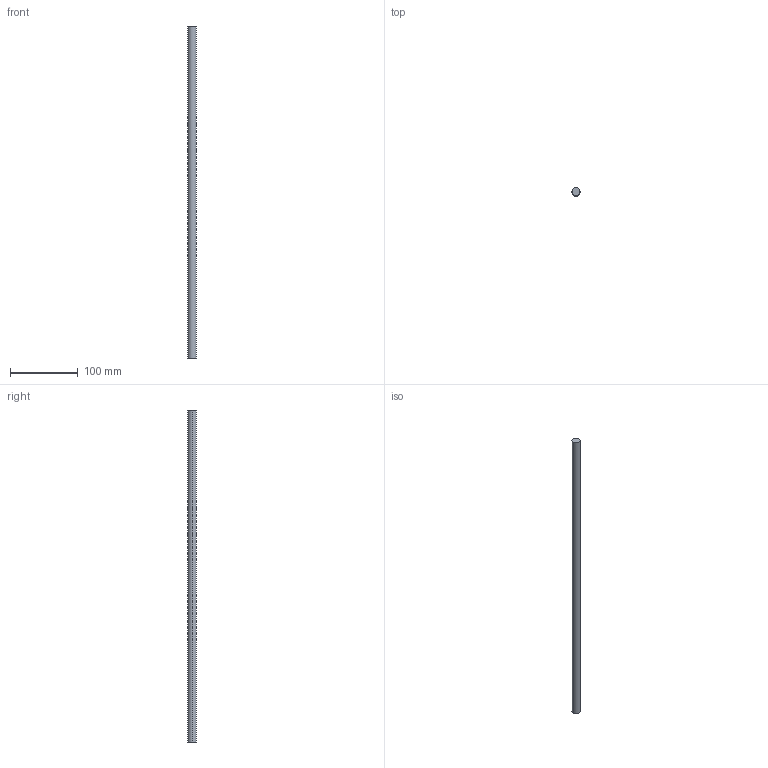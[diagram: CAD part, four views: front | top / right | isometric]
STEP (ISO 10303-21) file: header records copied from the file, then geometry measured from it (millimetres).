
FILE_DESCRIPTION (( 'STEP AP214' ), '1' );
FILE_NAME ('Magic Reling quer - S18_S19 - 600.step', '2010-09-07T14:56:12', ( 'grass' ), ( '' ), 'SwSTEP 2.0', 'SolidWorks 2010', '' );
FILE_SCHEMA (( 'AUTOMOTIVE_DESIGN' ));
Length unit declared in the file: millimetre
Products named in the file (1): Magic Reling quer - S18_S19 - 600
Bounding box: 12 x 12 x 491 mm (x, y, z)
Volume: 55530.8 mm3; surface area: 18736.5 mm2
Topology: 1 solids, 1 shells, 4 faces, 6 edges, 4 vertices
Faces by surface type: cylinder 2, plane 2
Entity records: 128 total; most frequent: DIRECTION 20, CARTESIAN_POINT 15, ORIENTED_EDGE 12, AXIS2_PLACEMENT_3D 9, EDGE_CURVE 6, EDGE_LOOP 4, FACE_OUTER_BOUND 4, CIRCLE 4
